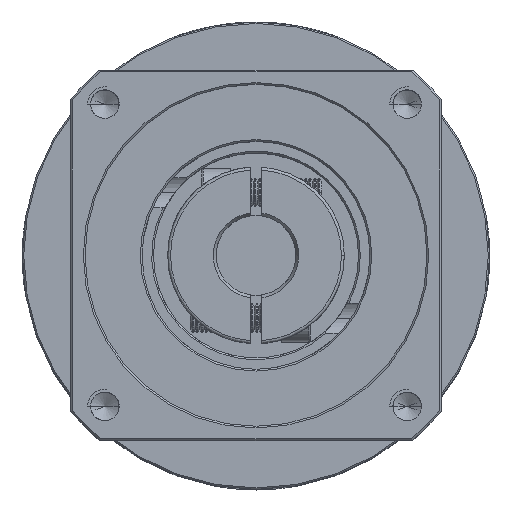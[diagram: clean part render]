
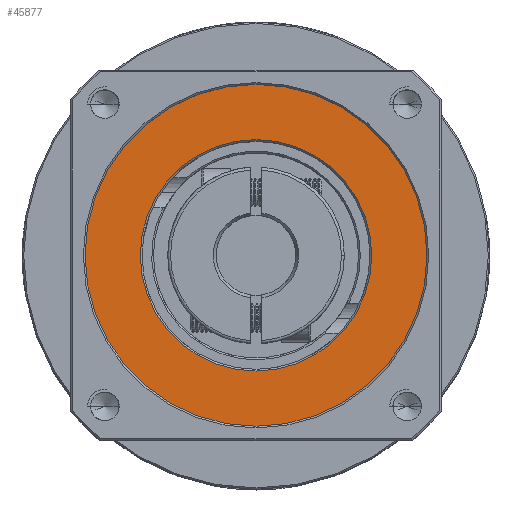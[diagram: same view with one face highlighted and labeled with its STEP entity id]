
A CAD part, top view. The second image highlights one B-rep face of the part: STEP entity #45877.
In plain terms, the highlighted planar face has unit normal (0, 0, 1).
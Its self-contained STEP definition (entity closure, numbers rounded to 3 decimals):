
#4347 = VERTEX_POINT ( 'NONE', #127947 ) ;
#7541 = ORIENTED_EDGE ( 'NONE', *, *, #49557, .T. ) ;
#18256 = CARTESIAN_POINT ( 'NONE',  ( -52.283, 58.764, -22.913 ) ) ;
#19972 = DIRECTION ( 'NONE',  ( 1., 0., 0. ) ) ;
#20518 = FACE_BOUND ( 'NONE', #79779, .T. ) ;
#20862 = AXIS2_PLACEMENT_3D ( 'NONE', #25933, #125773, #36040 ) ;
#24999 = CARTESIAN_POINT ( 'NONE',  ( -52.283, 58.764, -22.913 ) ) ;
#25933 = CARTESIAN_POINT ( 'NONE',  ( -52.283, 58.764, -22.913 ) ) ;
#30330 = EDGE_LOOP ( 'NONE', ( #79553, #32593 ) ) ;
#32593 = ORIENTED_EDGE ( 'NONE', *, *, #121620, .T. ) ;
#34675 = CARTESIAN_POINT ( 'NONE',  ( -52.283, 58.764, -22.913 ) ) ;
#35111 = DIRECTION ( 'NONE',  ( 0., 0., -1. ) ) ;
#36040 = DIRECTION ( 'NONE',  ( 1., 0., 0. ) ) ;
#44377 = CIRCLE ( 'NONE', #47950, 20.3 ) ;
#45877 = ADVANCED_FACE ( 'NONE', ( #20518, #118558 ), #115622, .T. ) ;
#47950 = AXIS2_PLACEMENT_3D ( 'NONE', #24999, #35111, #105890 ) ;
#49437 = CIRCLE ( 'NONE', #20862, 20.3 ) ;
#49557 = EDGE_CURVE ( 'NONE', #4347, #63552, #44377, .T. ) ;
#56838 = EDGE_CURVE ( 'NONE', #112850, #100862, #109496, .T. ) ;
#61457 = CARTESIAN_POINT ( 'NONE',  ( -22.283, 58.764, -22.913 ) ) ;
#63552 = VERTEX_POINT ( 'NONE', #118023 ) ;
#66801 = CARTESIAN_POINT ( 'NONE',  ( -82.283, 58.764, -22.913 ) ) ;
#68075 = CARTESIAN_POINT ( 'NONE',  ( -52.283, 58.764, -22.913 ) ) ;
#79553 = ORIENTED_EDGE ( 'NONE', *, *, #56838, .T. ) ;
#79779 = EDGE_LOOP ( 'NONE', ( #123638, #7541 ) ) ;
#88932 = DIRECTION ( 'NONE',  ( 0., 0., 1. ) ) ;
#93945 = DIRECTION ( 'NONE',  ( 1., 0., 0. ) ) ;
#94790 = AXIS2_PLACEMENT_3D ( 'NONE', #18256, #88932, #19972 ) ;
#98165 = AXIS2_PLACEMENT_3D ( 'NONE', #34675, #105016, #93945 ) ;
#100862 = VERTEX_POINT ( 'NONE', #66801 ) ;
#105016 = DIRECTION ( 'NONE',  ( 0., 0., 1. ) ) ;
#105890 = DIRECTION ( 'NONE',  ( 1., 0., 0. ) ) ;
#109496 = CIRCLE ( 'NONE', #94790, 30. ) ;
#109759 = DIRECTION ( 'NONE',  ( 0., 0., 1. ) ) ;
#110225 = DIRECTION ( 'NONE',  ( 1., 0., 0. ) ) ;
#112850 = VERTEX_POINT ( 'NONE', #61457 ) ;
#115622 = PLANE ( 'NONE',  #98165 ) ;
#117849 = EDGE_CURVE ( 'NONE', #63552, #4347, #49437, .T. ) ;
#118023 = CARTESIAN_POINT ( 'NONE',  ( -31.983, 58.764, -22.913 ) ) ;
#118558 = FACE_OUTER_BOUND ( 'NONE', #30330, .T. ) ;
#120914 = CIRCLE ( 'NONE', #130601, 30. ) ;
#121620 = EDGE_CURVE ( 'NONE', #100862, #112850, #120914, .T. ) ;
#123638 = ORIENTED_EDGE ( 'NONE', *, *, #117849, .T. ) ;
#125773 = DIRECTION ( 'NONE',  ( 0., 0., -1. ) ) ;
#127947 = CARTESIAN_POINT ( 'NONE',  ( -72.583, 58.764, -22.913 ) ) ;
#130601 = AXIS2_PLACEMENT_3D ( 'NONE', #68075, #109759, #110225 ) ;
